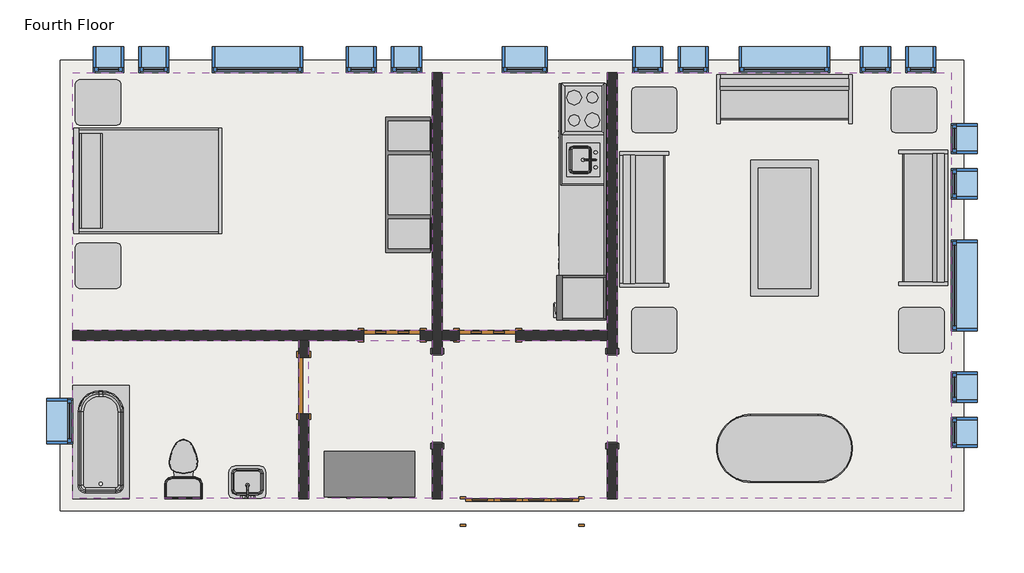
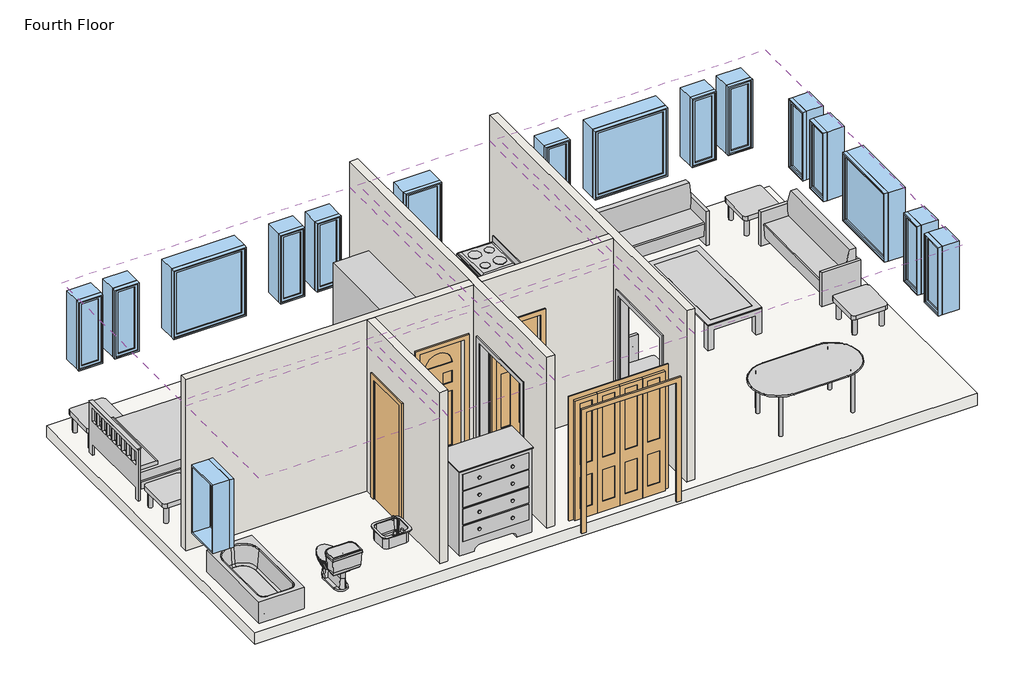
# One storey, incomplete: 17 windows, 15 furniture elements, 6 coverings, 6 proxies, 4 doors, 4 flow terminals, 4 walls, 1 slab.
"""IFC4 building model written with IfcOpenShell, lengths in millimetres."""

from ifc_helpers import new_model, si_unit, frame, origin, place, context, project, spatial, polyline, outline, extrude, faceted_brep, transform, mapped, element, save
from components import m_cook_top_4_unit2_0615_x_500mm_249f3515, m_dishwasher_610_x_610_x_875mm_54ecfc4c, m_kitchenette_medium_1372mm_e05c6bec, m_passage_opening_cased_1220_x_2134mm_87a8d9c2, m_refrigerator_600_x_660mm_a466bf94, m_bifold_4_panel_1525_x_2134mm_1ddae71f, m_single_decorative_2_0762_x_2134mm_0d0af7cb, m_single_decorative_2_0762_x_2134mm_2fe67c8e, m_single_flush_0762_x_2134mm_0d89e411, m_sink_kitchen_island_450_x_450mm_f969cf2d, m_sink_vanity_square_500_x_440mm_1e229b74, m_toilet_domestic_3d_m_toilet_domestic_3d_5cb52bd4, m_toilet_domestic_3d_m_toilet_domestic_3d_183bbd19, m_tub_rectangular_3d_m_tub_rectangular_3d_3a981ad5, m_bed_shaker_1422_x_1981mm_double_096e7f55, m_counter_top_w_sink_hole_600mm_depth_1fb56bb9, m_dresser_1220_x_1525_x_0610mm_18e1f140, m_entertainment_center_1830_x_1830_x_0610mm_f77a9b93, m_sofa_1830mm_f9e8a66b, m_table_coffee_0915_x_1830_x_0457mm_134cd960, m_table_dining_oval_0915_x_1830mm_a7cfbe21, m_table_end_cb6ea12e, m_fixed_0406_x_1220mm_57fee329, m_fixed_0406_x_1220mm_85c28f40, m_fixed_0610_x_1220mm_2c28ef1d, m_fixed_1220_x_1220mm_e08ff7af

model = new_model("IFC4")

# Units and contexts
model_context = context("Model", 3, world=origin())
ifc_project = project(units=[si_unit("LENGTHUNIT", "METRE", prefix="MILLI")], contexts=[model_context])

# Site, building, storey
site = spatial("IfcSite", under=ifc_project)
building = spatial("IfcBuilding", under=site)
storey = spatial("IfcBuildingStorey", under=building, Name="Fourth Floor", Elevation=9144.0)

# Proxies
placement = place(None, origin())
m_cook_top_4_unit2_0615_x_500mm_shape = m_cook_top_4_unit2_0615_x_500mm_249f3515(model_context)
element("IfcBuildingElementProxy", 1, Name="M_Cook Top-4 Unit2 : 0615 x 500mm", ObjectType="M_Cook Top-4 Unit2 : 0615 x 500mm", at=placement, inside=storey, context=model_context, shape_type="MappedRepresentation", body=[
    mapped(m_cook_top_4_unit2_0615_x_500mm_shape, transform((-8054.9916203, 1914.054661, 9144.0), x_axis=(0.0, -1.0, 0.0), y_axis=(1.0, 0.0, 0.0), z_axis=(0.0, 0.0, 1.0))),
])
m_dishwasher_610_x_610_x_875mm_shape = m_dishwasher_610_x_610_x_875mm_54ecfc4c(model_context)
element("IfcBuildingElementProxy", 2, Name="M_Dishwasher : 610 x 610 x 875mm", ObjectType="M_Dishwasher : 610 x 610 x 875mm", at=placement, inside=storey, context=model_context, shape_type="MappedRepresentation", body=[
    mapped(m_dishwasher_610_x_610_x_875mm_shape, transform((-8321.6411851, 353.5721295, 9144.0), x_axis=(0.0, -1.0, 0.0), y_axis=(1.0, 0.0, 0.0), z_axis=(0.0, 0.0, 1.0))),
])
m_kitchenette_medium_1372mm_shape = m_kitchenette_medium_1372mm_e05c6bec(model_context)
element("IfcBuildingElementProxy", 3, Name="M_Kitchenette - Medium : 1372mm", ObjectType="M_Kitchenette - Medium : 1372mm", at=placement, inside=storey, context=model_context, shape_type="MappedRepresentation", body=[
    mapped(m_kitchenette_medium_1372mm_shape, transform((-7749.9916203, 1589.7923659, 9144.0), x_axis=(0.0, -1.0, 0.0), y_axis=(1.0, 0.0, 0.0), z_axis=(0.0, 0.0, 1.0))),
])
m_passage_opening_cased_1220_x_2134mm_shape = m_passage_opening_cased_1220_x_2134mm_87a8d9c2(model_context)
element("IfcBuildingElementProxy", 4, Name="M_Passage Opening-Cased : 1220 x 2134mm", ObjectType="M_Passage Opening-Cased : 1220 x 2134mm", at=placement, inside=storey, context=model_context, shape_type="MappedRepresentation", body=[
    mapped(m_passage_opening_cased_1220_x_2134mm_shape, transform((-7665.3416203, -1982.6925047, 9144.0), x_axis=(0.0, 1.0, 0.0), y_axis=(-1.0, 0.0, 0.0), z_axis=(0.0, 0.0, 1.0))),
])
element("IfcBuildingElementProxy", 5, Name="M_Passage Opening-Cased : 1220 x 2134mm", ObjectType="M_Passage Opening-Cased : 1220 x 2134mm", at=placement, inside=storey, context=model_context, shape_type="MappedRepresentation", body=[
    mapped(m_passage_opening_cased_1220_x_2134mm_shape, transform((-10019.0916203, -1999.0698181, 9144.0), x_axis=(0.0, -1.0, 0.0), y_axis=(1.0, 0.0, 0.0), z_axis=(0.0, 0.0, 1.0))),
])
m_refrigerator_600_x_660mm_shape = m_refrigerator_600_x_660mm_a466bf94(model_context)
element("IfcBuildingElementProxy", 6, Name="M_Refrigerator : 600 x 660mm", ObjectType="M_Refrigerator : 600 x 660mm", at=placement, inside=storey, context=model_context, shape_type="MappedRepresentation", body=[
    mapped(m_refrigerator_600_x_660mm_shape, transform((-8046.2067105, -687.7464817, 9144.0), x_axis=(0.0, -1.0, 0.0), y_axis=(1.0, 0.0, 0.0), z_axis=(0.0, 0.0, 1.0))),
])

# Coverings
element("IfcCovering", 7, ObjectType="Plain", at=placement, inside=storey, context=model_context, shape_type="SweptSolid", body=[
    extrude(outline(polyline([(-14935.3416203, 2406.1188386), (-10086.8416203, 2406.1188386), (-10086.8416203, -1070.3811614), (-14935.3416203, -1070.3811614), (-14935.3416203, 2406.1188386)])), frame((0.0, 0.0, 11734.0), z_axis=(0.0, 0.0, 1.0), x_axis=(1.0, 0.0, 0.0)), (0.0, 0.0, 1.0), 57.0),
])
element("IfcCovering", 8, ObjectType="Plain", at=placement, inside=storey, context=model_context, shape_type="SweptSolid", body=[
    extrude(outline(polyline([(-9951.3416203, -1070.3811614), (-9951.3416203, 2406.1188386), (-7733.0916203, 2406.1188386), (-7733.0916203, -1070.3811614), (-9951.3416203, -1070.3811614)])), frame((0.0, 0.0, 11734.0), z_axis=(0.0, 0.0, 1.0), x_axis=(1.0, 0.0, 0.0)), (0.0, 0.0, 1.0), 57.0),
])
element("IfcCovering", 9, ObjectType="Plain", at=placement, inside=storey, context=model_context, shape_type="SweptSolid", body=[
    extrude(outline(polyline([(-7597.5916203, -3339.8811614), (-7597.5916203, 2406.1188386), (-3093.3416203, 2406.1188386), (-3093.3416203, -3339.8811614), (-7597.5916203, -3339.8811614)])), frame((0.0, 0.0, 11734.0), z_axis=(0.0, 0.0, 1.0), x_axis=(1.0, 0.0, 0.0)), (0.0, 0.0, 1.0), 57.0),
])
element("IfcCovering", 10, ObjectType="Plain", at=placement, inside=storey, context=model_context, shape_type="SweptSolid", body=[
    extrude(outline(polyline([(-7733.0916203, -3339.8811614), (-9951.3416203, -3339.8811614), (-9951.3416203, -1205.8811614), (-7733.0916203, -1205.8811614), (-7733.0916203, -3339.8811614)])), frame((0.0, 0.0, 11734.0), z_axis=(0.0, 0.0, 1.0), x_axis=(1.0, 0.0, 0.0)), (0.0, 0.0, 1.0), 57.0),
])
element("IfcCovering", 11, ObjectType="Plain", at=placement, inside=storey, context=model_context, shape_type="SweptSolid", body=[
    extrude(outline(polyline([(-11887.3416203, -1205.8811614), (-11887.3416203, -3339.8811614), (-14935.3416203, -3339.8811614), (-14935.3416203, -1205.8811614), (-11887.3416203, -1205.8811614)])), frame((0.0, 0.0, 11734.0), z_axis=(0.0, 0.0, 1.0), x_axis=(1.0, 0.0, 0.0)), (0.0, 0.0, 1.0), 57.0),
])
element("IfcCovering", 12, ObjectType="Plain", at=placement, inside=storey, context=model_context, shape_type="SweptSolid", body=[
    extrude(outline(polyline([(-10086.8416203, -3339.8811614), (-11751.8416203, -3339.8811614), (-11751.8416203, -1205.8811614), (-10086.8416203, -1205.8811614), (-10086.8416203, -3339.8811614)])), frame((0.0, 0.0, 11734.0), z_axis=(0.0, 0.0, 1.0), x_axis=(1.0, 0.0, 0.0)), (0.0, 0.0, 1.0), 57.0),
])

# Doors
m_bifold_4_panel_1525_x_2134mm_shape = m_bifold_4_panel_1525_x_2134mm_1ddae71f(model_context)
element("IfcDoor", 13, ObjectType="M_Bifold-4 Panel : 1525 x 2134mm", at=placement, inside=storey, context=model_context, shape_type="MappedRepresentation", body=[
    mapped(m_bifold_4_panel_1525_x_2134mm_shape, transform((-8876.0916203, -3514.8811614, 9144.0), x_axis=(1.0, 0.0, 0.0), y_axis=(0.0, 1.0, 0.0), z_axis=(0.0, 0.0, 1.0))),
])
m_single_decorative_2_0762_x_2134mm_shape = m_single_decorative_2_0762_x_2134mm_0d0af7cb(model_context)
element("IfcDoor", 14, ObjectType="M_Single-Decorative 2 : 0762 x 2134mm", at=placement, inside=storey, context=model_context, shape_type="MappedRepresentation", body=[
    mapped(m_single_decorative_2_0762_x_2134mm_shape, transform((-9342.3416203, -1138.1311614, 9144.0), x_axis=(-1.0, 0.0, 0.0), y_axis=(0.0, -1.0, 0.0), z_axis=(0.0, 0.0, 1.0))),
])
m_single_decorative_2_0762_x_2134mm_2_shape = m_single_decorative_2_0762_x_2134mm_2fe67c8e(model_context)
element("IfcDoor", 15, ObjectType="M_Single-Decorative 2 : 0762 x 2134mm", at=placement, inside=storey, context=model_context, shape_type="MappedRepresentation", body=[
    mapped(m_single_decorative_2_0762_x_2134mm_2_shape, transform((-10629.0916203, -1138.1311614, 9144.0), x_axis=(1.0, 0.0, 0.0), y_axis=(0.0, 1.0, 0.0), z_axis=(0.0, 0.0, 1.0))),
])
m_single_flush_0762_x_2134mm_shape = m_single_flush_0762_x_2134mm_0d89e411(model_context)
element("IfcDoor", 16, ObjectType="M_Single-Flush : 0762 x 2134mm", at=placement, inside=storey, context=model_context, shape_type="MappedRepresentation", body=[
    mapped(m_single_flush_0762_x_2134mm_shape, transform((-11819.5916203, -1815.8811614, 9144.0), x_axis=(0.0, 1.0, 0.0), y_axis=(-1.0, 0.0, 0.0), z_axis=(0.0, 0.0, 1.0))),
])

# Flow terminals
m_sink_kitchen_island_450_x_450mm_shape = m_sink_kitchen_island_450_x_450mm_f969cf2d(model_context)
element("IfcFlowTerminal", 17, ObjectType="M_Sink Kitchen-Island : 450 x 450mm", at=placement, inside=storey, context=model_context, shape_type="MappedRepresentation", body=[
    mapped(m_sink_kitchen_island_450_x_450mm_shape, transform((-8057.3370214, 1243.7439015, 9144.0), x_axis=(0.0, -1.0, 0.0), y_axis=(1.0, 0.0, 0.0), z_axis=(0.0, 0.0, 1.0))),
])
m_sink_vanity_square_500_x_440mm_shape = m_sink_vanity_square_500_x_440mm_1e229b74(model_context)
element("IfcFlowTerminal", 18, ObjectType="M_Sink Vanity-Square : 500 x 440mm", at=placement, inside=storey, context=model_context, shape_type="MappedRepresentation", body=[
    mapped(m_sink_vanity_square_500_x_440mm_shape, transform((-12563.5523798, -3158.1107603, 9144.0), x_axis=(-1.0, 0.0, 0.0), y_axis=(0.0, -1.0, 0.0), z_axis=(0.0, 0.0, 1.0))),
])
m_toilet_domestic_3d_m_toilet_domestic_3d_shape = m_toilet_domestic_3d_m_toilet_domestic_3d_5cb52bd4(model_context)
m_toilet_domestic_3d_m_toilet_domestic_3d_2_shape = m_toilet_domestic_3d_m_toilet_domestic_3d_183bbd19(model_context)
element("IfcFlowTerminal", 19, ObjectType="M_Toilet-Domestic-3D : M_Toilet-Domestic-3D", at=placement, inside=storey, context=model_context, shape_type="MappedRepresentation", body=[
    mapped(m_toilet_domestic_3d_m_toilet_domestic_3d_shape, transform((-13440.7376477, -2845.185134, 9144.0), x_axis=(-1.0000000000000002, 0.0, 0.0), y_axis=(0.0, -1.0000000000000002, 0.0), z_axis=(0.0, 0.0, 1.0))),
    mapped(m_toilet_domestic_3d_m_toilet_domestic_3d_2_shape, transform((-13440.7376477, -2845.185134, 9144.0), x_axis=(-1.0000000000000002, 0.0, 0.0), y_axis=(0.0, -1.0000000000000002, 0.0), z_axis=(0.0, 0.0, 1.0))),
])
m_tub_rectangular_3d_m_tub_rectangular_3d_shape = m_tub_rectangular_3d_m_tub_rectangular_3d_3a981ad5(model_context)
element("IfcFlowTerminal", 20, ObjectType="M_Tub-Rectangular-3D : M_Tub-Rectangular-3D", at=placement, inside=storey, context=model_context, shape_type="MappedRepresentation", body=[
    mapped(m_tub_rectangular_3d_m_tub_rectangular_3d_shape, transform((-15110.3416203, -2229.2781927, 9144.0), x_axis=(0.0, 1.0, 0.0), y_axis=(-1.0, 0.0, 0.0), z_axis=(0.0, 0.0, 1.0))),
])

# Furniture
m_bed_shaker_1422_x_1981mm_double_shape = m_bed_shaker_1422_x_1981mm_double_096e7f55(model_context)
element("IfcFurniture", 21, ObjectType="M_Bed-Shaker : 1422 x 1981mm - Double", at=placement, inside=storey, context=model_context, shape_type="MappedRepresentation", body=[
    mapped(m_bed_shaker_1422_x_1981mm_double_shape, transform((-14905.3416203, 963.9688386, 9144.0), x_axis=(0.0, 1.0000000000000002, 0.0), y_axis=(-1.0000000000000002, 0.0, 0.0), z_axis=(0.0, 0.0, 1.0))),
])
m_counter_top_w_sink_hole_600mm_depth_shape = m_counter_top_w_sink_hole_600mm_depth_1fb56bb9(model_context)
element("IfcFurniture", 22, ObjectType="M_Counter Top w Sink Hole : 600mm Depth", at=placement, inside=storey, context=model_context, shape_type="MappedRepresentation", body=[
    mapped(m_counter_top_w_sink_hole_600mm_depth_shape, transform((-7749.9916203, 1056.5923659, 9144.0), x_axis=(0.0, -1.0, 0.0), y_axis=(1.0, 0.0, 0.0), z_axis=(0.0, 0.0, 1.0))),
])
m_dresser_1220_x_1525_x_0610mm_shape = m_dresser_1220_x_1525_x_0610mm_18e1f140(model_context)
element("IfcFurniture", 23, ObjectType="M_Dresser : 1220 x 1525 x 0610mm", at=placement, inside=storey, context=model_context, shape_type="MappedRepresentation", body=[
    mapped(m_dresser_1220_x_1525_x_0610mm_shape, transform((-10667.6483605, -2647.7182073, 9144.0), x_axis=(1.0, 0.0, 0.0), y_axis=(0.0, 1.0, 0.0), z_axis=(0.0, 0.0, 1.0))),
])
m_entertainment_center_1830_x_1830_x_0610mm_shape = m_entertainment_center_1830_x_1830_x_0610mm_f77a9b93(model_context)
element("IfcFurniture", 24, ObjectType="M_Entertainment center : 1830 x 1830 x 0610mm", at=placement, inside=storey, context=model_context, shape_type="MappedRepresentation", body=[
    mapped(m_entertainment_center_1830_x_1830_x_0610mm_shape, transform((-10818.2416203, 891.1188386, 9144.0), x_axis=(0.0, 1.0, 0.0), y_axis=(-1.0, 0.0, 0.0), z_axis=(0.0, 0.0, 1.0))),
])
m_sofa_1830mm_shape = m_sofa_1830mm_f9e8a66b(model_context)
element("IfcFurniture", 25, ObjectType="M_Sofa : 1830mm", at=placement, inside=storey, context=model_context, shape_type="MappedRepresentation", body=[
    mapped(m_sofa_1830mm_shape, transform((-5413.7121121, 1899.9647403, 9144.0), x_axis=(1.0, 0.0, 0.0), y_axis=(0.0, 1.0, 0.0), z_axis=(0.0, 0.0, 1.0))),
])
element("IfcFurniture", 26, ObjectType="M_Sofa : 1830mm", at=placement, inside=storey, context=model_context, shape_type="MappedRepresentation", body=[
    mapped(m_sofa_1830mm_shape, transform((-3617.1736471, 517.2688343, 9144.0), x_axis=(0.0, -1.0, 0.0), y_axis=(1.0, 0.0, 0.0), z_axis=(0.0, 0.0, 1.0))),
])
element("IfcFurniture", 27, ObjectType="M_Sofa : 1830mm", at=placement, inside=storey, context=model_context, shape_type="MappedRepresentation", body=[
    mapped(m_sofa_1830mm_shape, transform((-7088.437522, 355.7483468, 9144.0), x_axis=(0.0, 1.0, 0.0), y_axis=(-1.0, 0.0, 0.0), z_axis=(0.0, 0.0, 1.0))),
])
m_table_coffee_0915_x_1830_x_0457mm_shape = m_table_coffee_0915_x_1830_x_0457mm_134cd960(model_context)
element("IfcFurniture", 28, ObjectType="M_Table-Coffee : 0915 x 1830 x 0457mm", at=placement, inside=storey, context=model_context, shape_type="MappedRepresentation", body=[
    mapped(m_table_coffee_0915_x_1830_x_0457mm_shape, transform((-5248.1305425, 287.8530719, 9144.0), x_axis=(0.0, 1.0, 0.0), y_axis=(-1.0, 0.0, 0.0), z_axis=(0.0, 0.0, 1.0))),
])
m_table_dining_oval_0915_x_1830mm_shape = m_table_dining_oval_0915_x_1830mm_a7cfbe21(model_context)
element("IfcFurniture", 29, ObjectType="M_Table-Dining Oval : 0915 x 1830mm", at=placement, inside=storey, context=model_context, shape_type="MappedRepresentation", body=[
    mapped(m_table_dining_oval_0915_x_1830mm_shape, transform((-4941.5219482, -2305.2828007, 9144.0), x_axis=(1.0, 0.0, 0.0), y_axis=(0.0, 1.0, 0.0), z_axis=(0.0, 0.0, 1.0))),
])
m_table_end_shape = m_table_end_cb6ea12e(model_context)
element("IfcFurniture", 30, ObjectType="M_Table-End : 0610 x 0160mm altered height", at=placement, inside=storey, context=model_context, shape_type="MappedRepresentation", body=[
    mapped(m_table_end_shape, transform((-7407.0752506, 1748.7188386, 9144.0), x_axis=(1.0, 0.0, 0.0), y_axis=(0.0, 1.0, 0.0), z_axis=(0.0, 0.0, 1.0))),
])
element("IfcFurniture", 31, ObjectType="M_Table-End : 0610 x 0160mm altered height", at=placement, inside=storey, context=model_context, shape_type="MappedRepresentation", body=[
    mapped(m_table_end_shape, transform((-3907.0752506, 1748.7188386, 9144.0), x_axis=(1.0, 0.0, 0.0), y_axis=(0.0, 1.0, 0.0), z_axis=(0.0, 0.0, 1.0))),
])
element("IfcFurniture", 32, ObjectType="M_Table-End : 0610 x 0160mm altered height", at=placement, inside=storey, context=model_context, shape_type="MappedRepresentation", body=[
    mapped(m_table_end_shape, transform((-3807.0752506, -1222.7811614, 9144.0), x_axis=(1.0, 0.0, 0.0), y_axis=(0.0, 1.0, 0.0), z_axis=(0.0, 0.0, 1.0))),
])
element("IfcFurniture", 33, ObjectType="M_Table-End : 0610 x 0160mm altered height", at=placement, inside=storey, context=model_context, shape_type="MappedRepresentation", body=[
    mapped(m_table_end_shape, transform((-7407.0752506, -1222.7811614, 9144.0), x_axis=(1.0, 0.0, 0.0), y_axis=(0.0, 1.0, 0.0), z_axis=(0.0, 0.0, 1.0))),
])
element("IfcFurniture", 34, ObjectType="M_Table-End : 0610 x 0160mm altered height", at=placement, inside=storey, context=model_context, shape_type="MappedRepresentation", body=[
    mapped(m_table_end_shape, transform((-14899.0752506, -351.2811614, 9144.0), x_axis=(1.0, 0.0, 0.0), y_axis=(0.0, 1.0, 0.0), z_axis=(0.0, 0.0, 1.0))),
])
element("IfcFurniture", 35, ObjectType="M_Table-End : 0610 x 0160mm altered height", at=placement, inside=storey, context=model_context, shape_type="MappedRepresentation", body=[
    mapped(m_table_end_shape, transform((-14899.0752506, 1848.7188386, 9144.0), x_axis=(1.0, 0.0, 0.0), y_axis=(0.0, 1.0, 0.0), z_axis=(0.0, 0.0, 1.0))),
])

# Slab
element("IfcSlab", 36, ObjectType="160mm Concrete With 50mm Metal Deck", at=placement, inside=storey, context=model_context, shape_type="SweptSolid", body=[
    extrude(outline(polyline([(-2928.3416203, 2571.1188386), (-2928.3416203, -3504.8811614), (-15100.3416203, -3504.8811614), (-15100.3416203, 2571.1188386), (-2928.3416203, 2571.1188386)])), frame((0.0, 0.0, 8934.0), z_axis=(0.0, 0.0, 1.0), x_axis=(1.0, 0.0, 0.0)), (0.0, 0.0, 1.0), 210.0),
])

# Walls
element("IfcWall", 37, ObjectType="Interior - 135mm Partition (2-hr)", at=placement, inside=storey, context=model_context, shape_type="Brep", body=[
    faceted_brep([(-7733.0916203, 2406.1188386, 9144.0), (-7733.0916203, -1070.3811614, 9144.0), (-7733.0916203, -1205.8811614, 9144.0), (-7733.0916203, -1380.8811614, 9144.0), (-7733.0916203, -1380.8811614, 11278.0), (-7733.0916203, -2600.8811614, 11278.0), (-7733.0916203, -2600.8811614, 9144.0), (-7733.0916203, -3339.8811614, 9144.0), (-7733.0916203, -3339.8811614, 12192.0), (-7733.0916203, -1205.8811614, 12192.0), (-7733.0916203, -1070.3811614, 12192.0), (-7733.0916203, 2406.1188386, 12192.0), (-7597.5916203, -1380.8811614, 11278.0), (-7597.5916203, -1380.8811614, 9144.0), (-7597.5916203, 2406.1188386, 9144.0), (-7597.5916203, 2406.1188386, 12192.0), (-7597.5916203, -3339.8811614, 12192.0), (-7597.5916203, -3339.8811614, 9144.0), (-7597.5916203, -2600.8811614, 9144.0), (-7597.5916203, -2600.8811614, 11278.0)], [[[0, 1, 2, 3, 4, 5, 6, 7, 8, 9, 10, 11]], [[12, 13, 14, 15, 16, 17, 18, 19]], [[18, 17, 7, 6]], [[14, 13, 3, 2, 1, 0]], [[11, 10, 9, 8, 16, 15]], [[6, 5, 19, 18]], [[4, 3, 13, 12]], [[5, 4, 12, 19]], [[0, 11, 15, 14]], [[8, 7, 17, 16]]]),
])
element("IfcWall", 38, ObjectType="Interior - 135mm Partition (2-hr)", at=placement, inside=storey, context=model_context, shape_type="Brep", body=[
    faceted_brep([(-10086.8416203, -2600.8811614, 11278.0), (-10086.8416203, -2600.8811614, 9144.0), (-10086.8416203, -3339.8811614, 9144.0), (-10086.8416203, -3339.8811614, 12192.0), (-10086.8416203, -1205.8811614, 12192.0), (-10086.8416203, -1070.3811614, 12192.0), (-10086.8416203, 2406.1188386, 12192.0), (-10086.8416203, 2406.1188386, 9144.0), (-10086.8416203, -1070.3811614, 9144.0), (-10086.8416203, -1205.8811614, 9144.0), (-10086.8416203, -1380.8811614, 9144.0), (-10086.8416203, -1380.8811614, 11278.0), (-9951.3416203, -3339.8811614, 9144.0), (-9951.3416203, -2600.8811614, 9144.0), (-9951.3416203, -2600.8811614, 11278.0), (-9951.3416203, -1380.8811614, 11278.0), (-9951.3416203, -1380.8811614, 9144.0), (-9951.3416203, -1205.8811614, 9144.0), (-9951.3416203, -1070.3811614, 9144.0), (-9951.3416203, 2406.1188386, 9144.0), (-9951.3416203, 2406.1188386, 12192.0), (-9951.3416203, -1070.3811614, 12192.0), (-9951.3416203, -1205.8811614, 12192.0), (-9951.3416203, -3339.8811614, 12192.0)], [[[0, 1, 2, 3, 4, 5, 6, 7, 8, 9, 10, 11]], [[12, 13, 14, 15, 16, 17, 18, 19, 20, 21, 22, 23]], [[2, 1, 13, 12]], [[10, 9, 8, 7, 19, 18, 17, 16]], [[6, 5, 4, 3, 23, 22, 21, 20]], [[16, 15, 11, 10]], [[14, 13, 1, 0]], [[15, 14, 0, 11]], [[7, 6, 20, 19]], [[3, 2, 12, 23]]]),
])
element("IfcWall", 39, ObjectType="Interior - 135mm Partition (2-hr)", at=placement, inside=storey, context=model_context, shape_type="Brep", body=[
    faceted_brep([(-7733.0916203, -1205.8811614, 9144.0), (-7733.0916203, -1205.8811614, 12192.0), (-9951.3416203, -1205.8811614, 12192.0), (-9951.3416203, -1205.8811614, 9144.0), (-9723.3416203, -1205.8811614, 9144.0), (-9723.3416203, -1205.8811614, 11278.0), (-8961.3416203, -1205.8811614, 11278.0), (-8961.3416203, -1205.8811614, 9144.0), (-7733.0916203, -1070.3811614, 12192.0), (-7733.0916203, -1070.3811614, 9144.0), (-8961.3416203, -1070.3811614, 9144.0), (-8961.3416203, -1070.3811614, 11278.0), (-9723.3416203, -1070.3811614, 11278.0), (-9723.3416203, -1070.3811614, 9144.0), (-9951.3416203, -1070.3811614, 9144.0), (-9951.3416203, -1070.3811614, 12192.0)], [[[0, 1, 2, 3, 4, 5, 6, 7]], [[8, 9, 10, 11, 12, 13, 14, 15]], [[9, 0, 7, 10]], [[13, 4, 3, 14]], [[1, 8, 15, 2]], [[1, 0, 9, 8]], [[3, 2, 15, 14]], [[5, 4, 13, 12]], [[6, 5, 12, 11]], [[7, 6, 11, 10]]]),
    faceted_brep([(-10248.0916203, -1205.8811614, 11278.0), (-10248.0916203, -1205.8811614, 9144.0), (-10086.8416203, -1205.8811614, 9144.0), (-10086.8416203, -1205.8811614, 12192.0), (-11751.8416203, -1205.8811614, 12192.0), (-11887.3416203, -1205.8811614, 12192.0), (-14935.3416203, -1205.8811614, 12192.0), (-14935.3416203, -1205.8811614, 9144.0), (-11887.3416203, -1205.8811614, 9144.0), (-11751.8416203, -1205.8811614, 9144.0), (-11010.0916203, -1205.8811614, 9144.0), (-11010.0916203, -1205.8811614, 11278.0), (-10248.0916203, -1070.3811614, 9144.0), (-10248.0916203, -1070.3811614, 11278.0), (-11010.0916203, -1070.3811614, 11278.0), (-11010.0916203, -1070.3811614, 9144.0), (-14935.3416203, -1070.3811614, 9144.0), (-14935.3416203, -1070.3811614, 12192.0), (-10086.8416203, -1070.3811614, 12192.0), (-10086.8416203, -1070.3811614, 9144.0)], [[[0, 1, 2, 3, 4, 5, 6, 7, 8, 9, 10, 11]], [[12, 13, 14, 15, 16, 17, 18, 19]], [[1, 12, 19, 2]], [[15, 10, 9, 8, 7, 16]], [[17, 6, 5, 4, 3, 18]], [[3, 2, 19, 18]], [[13, 12, 1, 0]], [[14, 13, 0, 11]], [[15, 14, 11, 10]], [[7, 6, 17, 16]]]),
])
element("IfcWall", 40, ObjectType="Interior - 135mm Partition (2-hr)", at=placement, inside=storey, context=model_context, shape_type="SweptSolid", body=[
    extrude(outline(polyline([(-1205.8811614, 9144.0), (-1434.8811614, 9144.0), (-1434.8811614, 11278.0), (-2196.8811614, 11278.0), (-2196.8811614, 9144.0), (-3339.8811614, 9144.0), (-3339.8811614, 12192.0), (-1205.8811614, 12192.0), (-1205.8811614, 9144.0)])), frame((-11887.3416203, 0.0, 0.0), z_axis=(1.0, 0.0, 0.0), x_axis=(0.0, 1.0, 0.0)), (0.0, 0.0, 1.0), 135.5),
])

# Windows
m_fixed_0406_x_1220mm_shape = m_fixed_0406_x_1220mm_57fee329(model_context)
element("IfcWindow", 41, ObjectType="M_Fixed : 0406 x 1220mm", at=placement, inside=storey, context=model_context, shape_type="MappedRepresentation", body=[
    mapped(m_fixed_0406_x_1220mm_shape, transform((-14450.3416203, 2594.1188386, 9144.0), x_axis=(-1.0, 0.0, 0.0), y_axis=(0.0, -1.0, 0.0), z_axis=(0.0, 0.0, 1.0))),
])
element("IfcWindow", 42, ObjectType="M_Fixed : 0406 x 1220mm", at=placement, inside=storey, context=model_context, shape_type="MappedRepresentation", body=[
    mapped(m_fixed_0406_x_1220mm_shape, transform((-13840.3416203, 2594.1188386, 9144.0), x_axis=(-1.0, 0.0, 0.0), y_axis=(0.0, -1.0, 0.0), z_axis=(0.0, 0.0, 1.0))),
])
element("IfcWindow", 43, ObjectType="M_Fixed : 0406 x 1220mm", at=placement, inside=storey, context=model_context, shape_type="MappedRepresentation", body=[
    mapped(m_fixed_0406_x_1220mm_shape, transform((-7183.3416203, 2594.1188386, 9144.0), x_axis=(-1.0, 0.0, 0.0), y_axis=(0.0, -1.0, 0.0), z_axis=(0.0, 0.0, 1.0))),
])
element("IfcWindow", 44, ObjectType="M_Fixed : 0406 x 1220mm", at=placement, inside=storey, context=model_context, shape_type="MappedRepresentation", body=[
    mapped(m_fixed_0406_x_1220mm_shape, transform((-6573.3416203, 2594.1188386, 9144.0), x_axis=(-1.0, 0.0, 0.0), y_axis=(0.0, -1.0, 0.0), z_axis=(0.0, 0.0, 1.0))),
])
element("IfcWindow", 45, ObjectType="M_Fixed : 0406 x 1220mm", at=placement, inside=storey, context=model_context, shape_type="MappedRepresentation", body=[
    mapped(m_fixed_0406_x_1220mm_shape, transform((-2905.3416203, 1514.1188386, 9144.0), x_axis=(0.0, 1.0, 0.0), y_axis=(-1.0, 0.0, 0.0), z_axis=(0.0, 0.0, 1.0))),
])
element("IfcWindow", 46, ObjectType="M_Fixed : 0406 x 1220mm", at=placement, inside=storey, context=model_context, shape_type="MappedRepresentation", body=[
    mapped(m_fixed_0406_x_1220mm_shape, transform((-2905.3416203, 904.1188386, 9144.0), x_axis=(0.0, 1.0, 0.0), y_axis=(-1.0, 0.0, 0.0), z_axis=(0.0, 0.0, 1.0))),
])
m_fixed_0406_x_1220mm_2_shape = m_fixed_0406_x_1220mm_85c28f40(model_context)
element("IfcWindow", 47, ObjectType="M_Fixed : 0406 x 1220mm", at=placement, inside=storey, context=model_context, shape_type="MappedRepresentation", body=[
    mapped(m_fixed_0406_x_1220mm_2_shape, transform((-10436.3416203, 2594.1188386, 9144.0), x_axis=(1.0, 0.0, 0.0), y_axis=(0.0, 1.0, 0.0), z_axis=(0.0, 0.0, 1.0))),
])
element("IfcWindow", 48, ObjectType="M_Fixed : 0406 x 1220mm", at=placement, inside=storey, context=model_context, shape_type="MappedRepresentation", body=[
    mapped(m_fixed_0406_x_1220mm_2_shape, transform((-11046.3416203, 2594.1188386, 9144.0), x_axis=(1.0, 0.0, 0.0), y_axis=(0.0, 1.0, 0.0), z_axis=(0.0, 0.0, 1.0))),
])
element("IfcWindow", 49, ObjectType="M_Fixed : 0406 x 1220mm", at=placement, inside=storey, context=model_context, shape_type="MappedRepresentation", body=[
    mapped(m_fixed_0406_x_1220mm_2_shape, transform((-3507.5916203, 2594.1188386, 9144.0), x_axis=(1.0, 0.0, 0.0), y_axis=(0.0, 1.0, 0.0), z_axis=(0.0, 0.0, 1.0))),
])
element("IfcWindow", 50, ObjectType="M_Fixed : 0406 x 1220mm", at=placement, inside=storey, context=model_context, shape_type="MappedRepresentation", body=[
    mapped(m_fixed_0406_x_1220mm_2_shape, transform((-4117.5916203, 2594.1188386, 9144.0), x_axis=(1.0, 0.0, 0.0), y_axis=(0.0, 1.0, 0.0), z_axis=(0.0, 0.0, 1.0))),
])
element("IfcWindow", 51, ObjectType="M_Fixed : 0406 x 1220mm", at=placement, inside=storey, context=model_context, shape_type="MappedRepresentation", body=[
    mapped(m_fixed_0406_x_1220mm_2_shape, transform((-2905.3416203, -2447.8811614, 9144.0), x_axis=(0.0, -1.0, 0.0), y_axis=(1.0, 0.0, 0.0), z_axis=(0.0, 0.0, 1.0))),
])
element("IfcWindow", 52, ObjectType="M_Fixed : 0406 x 1220mm", at=placement, inside=storey, context=model_context, shape_type="MappedRepresentation", body=[
    mapped(m_fixed_0406_x_1220mm_2_shape, transform((-2905.3416203, -1837.8811614, 9144.0), x_axis=(0.0, -1.0, 0.0), y_axis=(1.0, 0.0, 0.0), z_axis=(0.0, 0.0, 1.0))),
])
m_fixed_0610_x_1220mm_shape = m_fixed_0610_x_1220mm_2c28ef1d(model_context)
element("IfcWindow", 53, ObjectType="M_Fixed : 0610 x 1220mm", at=placement, inside=storey, context=model_context, shape_type="MappedRepresentation", body=[
    mapped(m_fixed_0610_x_1220mm_shape, transform((-8842.1916203, 2594.1188386, 9144.0), x_axis=(-1.0, 0.0, 0.0), y_axis=(0.0, -1.0, 0.0), z_axis=(0.0, 0.0, 1.0))),
])
element("IfcWindow", 54, ObjectType="M_Fixed : 0610 x 1220mm", at=placement, inside=storey, context=model_context, shape_type="MappedRepresentation", body=[
    mapped(m_fixed_0610_x_1220mm_shape, transform((-15123.3416203, -2294.8811614, 9144.0), x_axis=(0.0, -1.0, 0.0), y_axis=(1.0, 0.0, 0.0), z_axis=(0.0, 0.0, 1.0))),
])
m_fixed_1220_x_1220mm_shape = m_fixed_1220_x_1220mm_e08ff7af(model_context)
element("IfcWindow", 55, ObjectType="M_Fixed : 1220 x 1220mm", at=placement, inside=storey, context=model_context, shape_type="MappedRepresentation", body=[
    mapped(m_fixed_1220_x_1220mm_shape, transform((-12443.3416203, 2594.1188386, 9144.0), x_axis=(-1.0, 0.0, 0.0), y_axis=(0.0, -1.0, 0.0), z_axis=(0.0, 0.0, 1.0))),
])
element("IfcWindow", 56, ObjectType="M_Fixed : 1220 x 1220mm", at=placement, inside=storey, context=model_context, shape_type="MappedRepresentation", body=[
    mapped(m_fixed_1220_x_1220mm_shape, transform((-5345.4666203, 2594.1188386, 9144.0), x_axis=(-1.0, 0.0, 0.0), y_axis=(0.0, -1.0, 0.0), z_axis=(0.0, 0.0, 1.0))),
])
element("IfcWindow", 57, ObjectType="M_Fixed : 1220 x 1220mm", at=placement, inside=storey, context=model_context, shape_type="MappedRepresentation", body=[
    mapped(m_fixed_1220_x_1220mm_shape, transform((-2905.3416203, -466.8811614, 9144.0), x_axis=(0.0, 1.0, 0.0), y_axis=(-1.0, 0.0, 0.0), z_axis=(0.0, 0.0, 1.0))),
])

save(model, "model.ifc")
